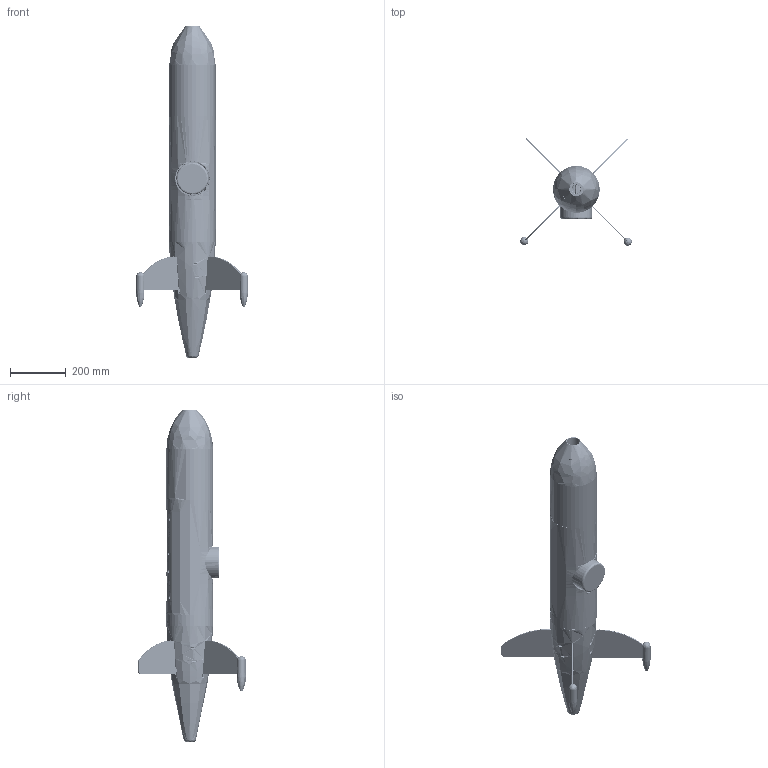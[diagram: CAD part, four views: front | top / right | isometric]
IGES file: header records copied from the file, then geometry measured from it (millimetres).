
Start section: SolidWorks IGES file using analytic representation for surfaces
Global section: file name: C:\Solidworks\customer facing\towbody with benthos modem.IGS; native system: SolidWorks 2014; preprocessor: SolidWorks 2014; author: ernie.ferrier; date: 140912.144606; units: millimetre
Bounding box: 398.73 x 384.93 x 1186.33 mm (x, y, z)
Surface area: 2478922 mm2 (no closed solid volume)
Topology: 0 solids, 0 shells, 6858 faces, 89962 edges, 89888 vertices
Faces by surface type: bspline 3693, revolution 3165
